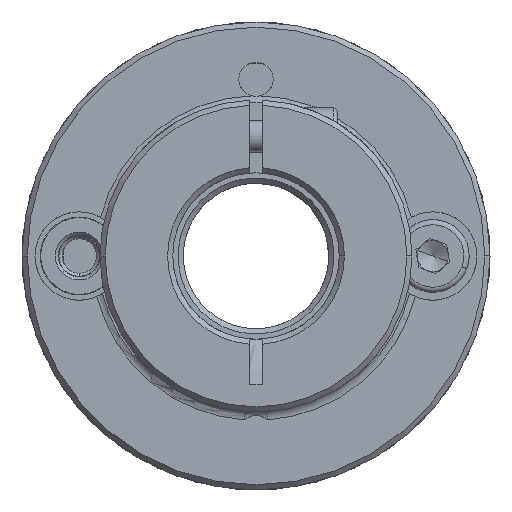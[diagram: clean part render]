
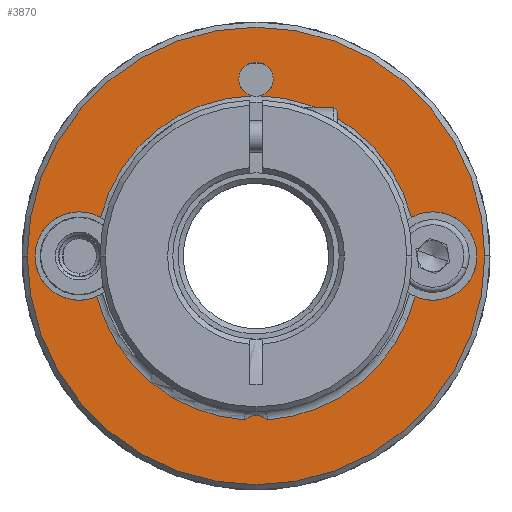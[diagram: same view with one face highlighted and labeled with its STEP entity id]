
A CAD part, front view. The second image highlights one B-rep face of the part: STEP entity #3870.
In plain terms, the highlighted planar face has unit normal (0, -1, 0).
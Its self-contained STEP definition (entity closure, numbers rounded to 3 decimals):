
#91 = CIRCLE ( 'NONE', #3642, 15.8 ) ;
#111 = CIRCLE ( 'NONE', #1137, 22. ) ;
#150 = ORIENTED_EDGE ( 'NONE', *, *, #11977, .T. ) ;
#278 = EDGE_CURVE ( 'NONE', #14589, #12672, #10203, .T. ) ;
#304 = CIRCLE ( 'NONE', #2412, 1.65 ) ;
#475 = VERTEX_POINT ( 'NONE', #4822 ) ;
#545 = CARTESIAN_POINT ( 'NONE',  ( -31.653, -8.743, 45. ) ) ;
#614 = EDGE_CURVE ( 'NONE', #11058, #13828, #2444, .T. ) ;
#786 = VERTEX_POINT ( 'NONE', #8656 ) ;
#925 = AXIS2_PLACEMENT_3D ( 'NONE', #3968, #7419, #1678 ) ;
#1028 = ORIENTED_EDGE ( 'NONE', *, *, #12376, .T. ) ;
#1052 = CARTESIAN_POINT ( 'NONE',  ( -9.653, -8.743, 28. ) ) ;
#1096 = CARTESIAN_POINT ( 'NONE',  ( -9.653, -8.743, 45. ) ) ;
#1137 = AXIS2_PLACEMENT_3D ( 'NONE', #9497, #14242, #7318 ) ;
#1158 = CARTESIAN_POINT ( 'NONE',  ( -8.003, -8.743, 62. ) ) ;
#1334 = CARTESIAN_POINT ( 'NONE',  ( -30.903, -8.743, 45. ) ) ;
#1527 = ORIENTED_EDGE ( 'NONE', *, *, #2003, .T. ) ;
#1533 = DIRECTION ( 'NONE',  ( 1., 0., 0. ) ) ;
#1552 = CARTESIAN_POINT ( 'NONE',  ( 5.291, -8.743, 48.72 ) ) ;
#1617 = FACE_OUTER_BOUND ( 'NONE', #14934, .T. ) ;
#1678 = DIRECTION ( 'NONE',  ( 1., 0., 0. ) ) ;
#1685 = CARTESIAN_POINT ( 'NONE',  ( -9.653, -8.743, 45. ) ) ;
#1817 = VERTEX_POINT ( 'NONE', #11197 ) ;
#2003 = EDGE_CURVE ( 'NONE', #10482, #14319, #12502, .T. ) ;
#2113 = DIRECTION ( 'NONE',  ( 1., 0., 0. ) ) ;
#2136 = AXIS2_PLACEMENT_3D ( 'NONE', #7848, #6615, #2113 ) ;
#2352 = CARTESIAN_POINT ( 'NONE',  ( -9.27, -8.743, 60.395 ) ) ;
#2393 = CARTESIAN_POINT ( 'NONE',  ( 11.597, -8.743, 45. ) ) ;
#2398 = EDGE_CURVE ( 'NONE', #1817, #786, #2941, .T. ) ;
#2412 = AXIS2_PLACEMENT_3D ( 'NONE', #3035, #9869, #2987 ) ;
#2444 = CIRCLE ( 'NONE', #5135, 4.25 ) ;
#2582 = VERTEX_POINT ( 'NONE', #11468 ) ;
#2828 = EDGE_CURVE ( 'NONE', #475, #14589, #9586, .T. ) ;
#2897 = ORIENTED_EDGE ( 'NONE', *, *, #278, .T. ) ;
#2941 = CIRCLE ( 'NONE', #3718, 15.4 ) ;
#2987 = DIRECTION ( 'NONE',  ( 1., 0., 0. ) ) ;
#3035 = CARTESIAN_POINT ( 'NONE',  ( -9.653, -8.743, 62. ) ) ;
#3139 = CIRCLE ( 'NONE', #13309, 15.4 ) ;
#3274 = CARTESIAN_POINT ( 'NONE',  ( 5.658, -8.743, 41.1 ) ) ;
#3342 = DIRECTION ( 'NONE',  ( 0., 1., 0. ) ) ;
#3390 = DIRECTION ( 'NONE',  ( 1., 0., 0. ) ) ;
#3493 = CIRCLE ( 'NONE', #925, 22. ) ;
#3511 = ORIENTED_EDGE ( 'NONE', *, *, #14889, .T. ) ;
#3642 = AXIS2_PLACEMENT_3D ( 'NONE', #6356, #6398, #11188 ) ;
#3718 = AXIS2_PLACEMENT_3D ( 'NONE', #1685, #4029, #13439 ) ;
#3817 = ORIENTED_EDGE ( 'NONE', *, *, #2828, .T. ) ;
#3870 = ADVANCED_FACE ( 'NONE', ( #9928, #1617 ), #9735, .T. ) ;
#3968 = CARTESIAN_POINT ( 'NONE',  ( -9.653, -8.743, 45. ) ) ;
#4001 = ORIENTED_EDGE ( 'NONE', *, *, #4028, .T. ) ;
#4028 = EDGE_CURVE ( 'NONE', #14319, #13201, #304, .T. ) ;
#4029 = DIRECTION ( 'NONE',  ( 0., 1., 0. ) ) ;
#4136 = EDGE_CURVE ( 'NONE', #12672, #1817, #12272, .T. ) ;
#4229 = EDGE_CURVE ( 'NONE', #13828, #12030, #6820, .T. ) ;
#4295 = EDGE_LOOP ( 'NONE', ( #4330, #3817, #2897, #12442, #12708, #7547, #1527, #4001, #150, #6866, #6144, #14963 ) ) ;
#4330 = ORIENTED_EDGE ( 'NONE', *, *, #6863, .T. ) ;
#4390 = CARTESIAN_POINT ( 'NONE',  ( -26.653, -8.743, 45. ) ) ;
#4523 = AXIS2_PLACEMENT_3D ( 'NONE', #8622, #9791, #12259 ) ;
#4822 = CARTESIAN_POINT ( 'NONE',  ( -10.744, -8.743, 29.238 ) ) ;
#5135 = AXIS2_PLACEMENT_3D ( 'NONE', #6112, #9673, #1533 ) ;
#5146 = AXIS2_PLACEMENT_3D ( 'NONE', #6523, #9025, #11357 ) ;
#5439 = CARTESIAN_POINT ( 'NONE',  ( -9.653, -8.743, 62. ) ) ;
#5710 = VERTEX_POINT ( 'NONE', #545 ) ;
#5855 = DIRECTION ( 'NONE',  ( 0., 1., 0. ) ) ;
#6112 = CARTESIAN_POINT ( 'NONE',  ( 7.347, -8.743, 45. ) ) ;
#6144 = ORIENTED_EDGE ( 'NONE', *, *, #4229, .T. ) ;
#6356 = CARTESIAN_POINT ( 'NONE',  ( -9.653, -8.743, 45. ) ) ;
#6398 = DIRECTION ( 'NONE',  ( 0., 1., 0. ) ) ;
#6523 = CARTESIAN_POINT ( 'NONE',  ( -9.653, -8.743, 45. ) ) ;
#6579 = DIRECTION ( 'NONE',  ( 0., 1., 0. ) ) ;
#6615 = DIRECTION ( 'NONE',  ( 0., 1., 0. ) ) ;
#6635 = CIRCLE ( 'NONE', #11133, 1.65 ) ;
#6802 = DIRECTION ( 'NONE',  ( 0., 1., 0. ) ) ;
#6820 = CIRCLE ( 'NONE', #8780, 4.25 ) ;
#6863 = EDGE_CURVE ( 'NONE', #10295, #475, #13456, .T. ) ;
#6866 = ORIENTED_EDGE ( 'NONE', *, *, #614, .T. ) ;
#6871 = DIRECTION ( 'NONE',  ( 0., 0., -1. ) ) ;
#7318 = DIRECTION ( 'NONE',  ( 1., 0., 0. ) ) ;
#7419 = DIRECTION ( 'NONE',  ( 0., -1., 0. ) ) ;
#7547 = ORIENTED_EDGE ( 'NONE', *, *, #13713, .T. ) ;
#7710 = AXIS2_PLACEMENT_3D ( 'NONE', #1052, #13811, #6871 ) ;
#7848 = CARTESIAN_POINT ( 'NONE',  ( -26.653, -8.743, 45. ) ) ;
#7880 = CARTESIAN_POINT ( 'NONE',  ( -9.653, -8.743, 62. ) ) ;
#7981 = CARTESIAN_POINT ( 'NONE',  ( -24.964, -8.743, 41.1 ) ) ;
#8467 = EDGE_CURVE ( 'NONE', #12030, #10295, #91, .T. ) ;
#8622 = CARTESIAN_POINT ( 'NONE',  ( -9.653, -8.743, 28. ) ) ;
#8656 = CARTESIAN_POINT ( 'NONE',  ( -10.037, -8.743, 60.395 ) ) ;
#8780 = AXIS2_PLACEMENT_3D ( 'NONE', #10273, #5855, #3390 ) ;
#9025 = DIRECTION ( 'NONE',  ( 0., 1., 0. ) ) ;
#9497 = CARTESIAN_POINT ( 'NONE',  ( -9.653, -8.743, 45. ) ) ;
#9586 = CIRCLE ( 'NONE', #5146, 15.8 ) ;
#9673 = DIRECTION ( 'NONE',  ( 0., 1., 0. ) ) ;
#9735 = PLANE ( 'NONE',  #4523 ) ;
#9791 = DIRECTION ( 'NONE',  ( 0., -1., 0. ) ) ;
#9869 = DIRECTION ( 'NONE',  ( 0., 1., 0. ) ) ;
#9928 = FACE_BOUND ( 'NONE', #4295, .T. ) ;
#10203 = CIRCLE ( 'NONE', #2136, 4.25 ) ;
#10273 = CARTESIAN_POINT ( 'NONE',  ( 7.347, -8.743, 45. ) ) ;
#10295 = VERTEX_POINT ( 'NONE', #13993 ) ;
#10322 = DIRECTION ( 'NONE',  ( 0., 1., 0. ) ) ;
#10482 = VERTEX_POINT ( 'NONE', #10675 ) ;
#10675 = CARTESIAN_POINT ( 'NONE',  ( -11.303, -8.743, 62. ) ) ;
#11058 = VERTEX_POINT ( 'NONE', #1552 ) ;
#11133 = AXIS2_PLACEMENT_3D ( 'NONE', #5439, #6579, #12422 ) ;
#11188 = DIRECTION ( 'NONE',  ( 1., 0., 0. ) ) ;
#11197 = CARTESIAN_POINT ( 'NONE',  ( -24.597, -8.743, 48.72 ) ) ;
#11357 = DIRECTION ( 'NONE',  ( 1., 0., 0. ) ) ;
#11387 = DIRECTION ( 'NONE',  ( 1., 0., 0. ) ) ;
#11468 = CARTESIAN_POINT ( 'NONE',  ( 12.347, -8.743, 45. ) ) ;
#11977 = EDGE_CURVE ( 'NONE', #13201, #11058, #3139, .T. ) ;
#12030 = VERTEX_POINT ( 'NONE', #3274 ) ;
#12259 = DIRECTION ( 'NONE',  ( -0.802, 0., 0.597 ) ) ;
#12272 = CIRCLE ( 'NONE', #13427, 4.25 ) ;
#12376 = EDGE_CURVE ( 'NONE', #2582, #5710, #3493, .T. ) ;
#12422 = DIRECTION ( 'NONE',  ( 1., 0., 0. ) ) ;
#12442 = ORIENTED_EDGE ( 'NONE', *, *, #4136, .T. ) ;
#12502 = CIRCLE ( 'NONE', #14676, 1.65 ) ;
#12672 = VERTEX_POINT ( 'NONE', #1334 ) ;
#12708 = ORIENTED_EDGE ( 'NONE', *, *, #2398, .T. ) ;
#13201 = VERTEX_POINT ( 'NONE', #2352 ) ;
#13309 = AXIS2_PLACEMENT_3D ( 'NONE', #1096, #10322, #13744 ) ;
#13427 = AXIS2_PLACEMENT_3D ( 'NONE', #4390, #3342, #13606 ) ;
#13439 = DIRECTION ( 'NONE',  ( 1., 0., 0. ) ) ;
#13456 = CIRCLE ( 'NONE', #7710, 1.65 ) ;
#13606 = DIRECTION ( 'NONE',  ( 1., 0., 0. ) ) ;
#13713 = EDGE_CURVE ( 'NONE', #786, #10482, #6635, .T. ) ;
#13744 = DIRECTION ( 'NONE',  ( 1., 0., 0. ) ) ;
#13811 = DIRECTION ( 'NONE',  ( 0., -1., 0. ) ) ;
#13828 = VERTEX_POINT ( 'NONE', #2393 ) ;
#13993 = CARTESIAN_POINT ( 'NONE',  ( -8.562, -8.743, 29.238 ) ) ;
#14242 = DIRECTION ( 'NONE',  ( 0., -1., 0. ) ) ;
#14319 = VERTEX_POINT ( 'NONE', #1158 ) ;
#14589 = VERTEX_POINT ( 'NONE', #7981 ) ;
#14676 = AXIS2_PLACEMENT_3D ( 'NONE', #7880, #6802, #11387 ) ;
#14889 = EDGE_CURVE ( 'NONE', #5710, #2582, #111, .T. ) ;
#14934 = EDGE_LOOP ( 'NONE', ( #3511, #1028 ) ) ;
#14963 = ORIENTED_EDGE ( 'NONE', *, *, #8467, .T. ) ;
